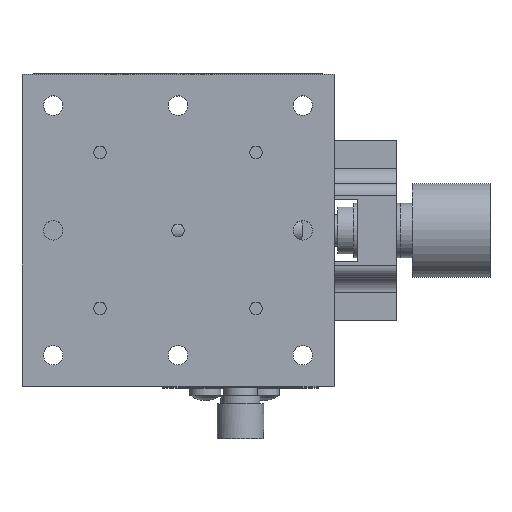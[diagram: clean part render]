
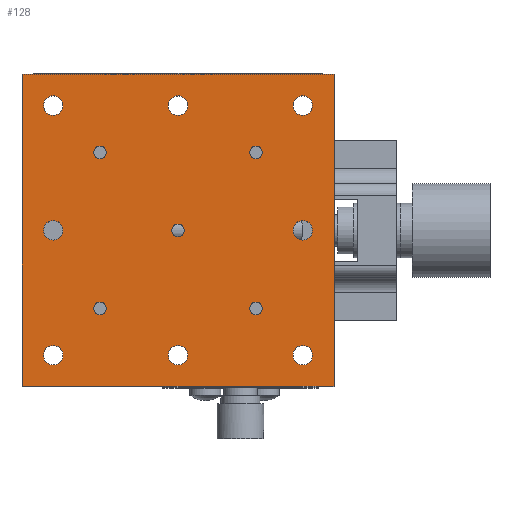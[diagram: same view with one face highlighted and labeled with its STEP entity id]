
A CAD part, top view. The second image highlights one B-rep face of the part: STEP entity #128.
In plain terms, the highlighted planar face has unit normal (0, 0, 1).
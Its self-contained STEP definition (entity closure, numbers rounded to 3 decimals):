
#128 = ADVANCED_FACE( '', ( #293, #294, #295, #296, #297, #298, #299, #300, #301, #302, #303, #304, #305, #306 ), #307, .T. );
#293 = FACE_BOUND( '', #737, .T. );
#294 = FACE_BOUND( '', #738, .T. );
#295 = FACE_BOUND( '', #739, .T. );
#296 = FACE_BOUND( '', #740, .T. );
#297 = FACE_BOUND( '', #741, .T. );
#298 = FACE_BOUND( '', #742, .T. );
#299 = FACE_BOUND( '', #743, .T. );
#300 = FACE_BOUND( '', #744, .T. );
#301 = FACE_BOUND( '', #745, .T. );
#302 = FACE_BOUND( '', #746, .T. );
#303 = FACE_BOUND( '', #747, .T. );
#304 = FACE_BOUND( '', #748, .T. );
#305 = FACE_BOUND( '', #749, .T. );
#306 = FACE_OUTER_BOUND( '', #750, .T. );
#307 = PLANE( '', #751 );
#737 = EDGE_LOOP( '', ( #1210 ) );
#738 = EDGE_LOOP( '', ( #1211 ) );
#739 = EDGE_LOOP( '', ( #1212 ) );
#740 = EDGE_LOOP( '', ( #1213 ) );
#741 = EDGE_LOOP( '', ( #1214 ) );
#742 = EDGE_LOOP( '', ( #1215 ) );
#743 = EDGE_LOOP( '', ( #1216 ) );
#744 = EDGE_LOOP( '', ( #1217 ) );
#745 = EDGE_LOOP( '', ( #1218 ) );
#746 = EDGE_LOOP( '', ( #1219 ) );
#747 = EDGE_LOOP( '', ( #1220 ) );
#748 = EDGE_LOOP( '', ( #1221 ) );
#749 = EDGE_LOOP( '', ( #1222 ) );
#750 = EDGE_LOOP( '', ( #1223, #1224, #1225, #1226 ) );
#751 = AXIS2_PLACEMENT_3D( '', #1227, #1228, #1229 );
#1210 = ORIENTED_EDGE( '', *, *, #2435, .T. );
#1211 = ORIENTED_EDGE( '', *, *, #2436, .T. );
#1212 = ORIENTED_EDGE( '', *, *, #2437, .T. );
#1213 = ORIENTED_EDGE( '', *, *, #2438, .T. );
#1214 = ORIENTED_EDGE( '', *, *, #2439, .T. );
#1215 = ORIENTED_EDGE( '', *, *, #2440, .T. );
#1216 = ORIENTED_EDGE( '', *, *, #2441, .T. );
#1217 = ORIENTED_EDGE( '', *, *, #2442, .T. );
#1218 = ORIENTED_EDGE( '', *, *, #2443, .T. );
#1219 = ORIENTED_EDGE( '', *, *, #2444, .T. );
#1220 = ORIENTED_EDGE( '', *, *, #2445, .T. );
#1221 = ORIENTED_EDGE( '', *, *, #2446, .T. );
#1222 = ORIENTED_EDGE( '', *, *, #2447, .T. );
#1223 = ORIENTED_EDGE( '', *, *, #2448, .F. );
#1224 = ORIENTED_EDGE( '', *, *, #2449, .F. );
#1225 = ORIENTED_EDGE( '', *, *, #2433, .F. );
#1226 = ORIENTED_EDGE( '', *, *, #2450, .F. );
#1227 = CARTESIAN_POINT( '', ( 0., 0., 15. ) );
#1228 = DIRECTION( '', ( 0., 0., 1. ) );
#1229 = DIRECTION( '', ( 1., 0., 0. ) );
#2433 = EDGE_CURVE( '', #2898, #2900, #2901, .T. );
#2435 = EDGE_CURVE( '', #2903, #2903, #2904, .T. );
#2436 = EDGE_CURVE( '', #2905, #2905, #2906, .T. );
#2437 = EDGE_CURVE( '', #2907, #2907, #2908, .T. );
#2438 = EDGE_CURVE( '', #2909, #2909, #2910, .T. );
#2439 = EDGE_CURVE( '', #2911, #2911, #2912, .T. );
#2440 = EDGE_CURVE( '', #2913, #2913, #2914, .T. );
#2441 = EDGE_CURVE( '', #2915, #2915, #2916, .T. );
#2442 = EDGE_CURVE( '', #2917, #2917, #2918, .T. );
#2443 = EDGE_CURVE( '', #2919, #2919, #2920, .T. );
#2444 = EDGE_CURVE( '', #2921, #2921, #2922, .T. );
#2445 = EDGE_CURVE( '', #2923, #2923, #2924, .T. );
#2446 = EDGE_CURVE( '', #2925, #2925, #2926, .T. );
#2447 = EDGE_CURVE( '', #2927, #2927, #2928, .T. );
#2448 = EDGE_CURVE( '', #2929, #2930, #2931, .T. );
#2449 = EDGE_CURVE( '', #2900, #2929, #2932, .T. );
#2450 = EDGE_CURVE( '', #2930, #2898, #2933, .T. );
#2898 = VERTEX_POINT( '', #3559 );
#2900 = VERTEX_POINT( '', #3562 );
#2901 = LINE( '', #3563, #3564 );
#2903 = VERTEX_POINT( '', #3567 );
#2904 = CIRCLE( '', #3568, 0.8 );
#2905 = VERTEX_POINT( '', #3569 );
#2906 = CIRCLE( '', #3570, 0.8 );
#2907 = VERTEX_POINT( '', #3571 );
#2908 = CIRCLE( '', #3572, 0.8 );
#2909 = VERTEX_POINT( '', #3573 );
#2910 = CIRCLE( '', #3574, 0.8 );
#2911 = VERTEX_POINT( '', #3575 );
#2912 = CIRCLE( '', #3576, 0.8 );
#2913 = VERTEX_POINT( '', #3577 );
#2914 = CIRCLE( '', #3578, 1.25 );
#2915 = VERTEX_POINT( '', #3579 );
#2916 = CIRCLE( '', #3580, 1.25 );
#2917 = VERTEX_POINT( '', #3581 );
#2918 = CIRCLE( '', #3582, 1.25 );
#2919 = VERTEX_POINT( '', #3583 );
#2920 = CIRCLE( '', #3584, 1.25 );
#2921 = VERTEX_POINT( '', #3585 );
#2922 = CIRCLE( '', #3586, 1.25 );
#2923 = VERTEX_POINT( '', #3587 );
#2924 = CIRCLE( '', #3588, 1.25 );
#2925 = VERTEX_POINT( '', #3589 );
#2926 = CIRCLE( '', #3590, 1.25 );
#2927 = VERTEX_POINT( '', #3591 );
#2928 = CIRCLE( '', #3592, 1.25 );
#2929 = VERTEX_POINT( '', #3593 );
#2930 = VERTEX_POINT( '', #3594 );
#2931 = LINE( '', #3595, #3596 );
#2932 = LINE( '', #3597, #3598 );
#2933 = LINE( '', #3599, #3600 );
#3559 = CARTESIAN_POINT( '', ( -20., 20., 15. ) );
#3562 = CARTESIAN_POINT( '', ( 20., 20., 15. ) );
#3563 = CARTESIAN_POINT( '', ( 0., 20., 15. ) );
#3564 = VECTOR( '', #4689, 1000. );
#3567 = CARTESIAN_POINT( '', ( 0., -0.8, 15. ) );
#3568 = AXIS2_PLACEMENT_3D( '', #4691, #4692, #4693 );
#3569 = CARTESIAN_POINT( '', ( -10., 9.2, 15. ) );
#3570 = AXIS2_PLACEMENT_3D( '', #4694, #4695, #4696 );
#3571 = CARTESIAN_POINT( '', ( 10., 9.2, 15. ) );
#3572 = AXIS2_PLACEMENT_3D( '', #4697, #4698, #4699 );
#3573 = CARTESIAN_POINT( '', ( 10., -10.8, 15. ) );
#3574 = AXIS2_PLACEMENT_3D( '', #4700, #4701, #4702 );
#3575 = CARTESIAN_POINT( '', ( -10., -10.8, 15. ) );
#3576 = AXIS2_PLACEMENT_3D( '', #4703, #4704, #4705 );
#3577 = CARTESIAN_POINT( '', ( -16., -1.25, 15. ) );
#3578 = AXIS2_PLACEMENT_3D( '', #4706, #4707, #4708 );
#3579 = CARTESIAN_POINT( '', ( -16., 14.75, 15. ) );
#3580 = AXIS2_PLACEMENT_3D( '', #4709, #4710, #4711 );
#3581 = CARTESIAN_POINT( '', ( 0., 14.75, 15. ) );
#3582 = AXIS2_PLACEMENT_3D( '', #4712, #4713, #4714 );
#3583 = CARTESIAN_POINT( '', ( 16., 14.75, 15. ) );
#3584 = AXIS2_PLACEMENT_3D( '', #4715, #4716, #4717 );
#3585 = CARTESIAN_POINT( '', ( 16., -1.25, 15. ) );
#3586 = AXIS2_PLACEMENT_3D( '', #4718, #4719, #4720 );
#3587 = CARTESIAN_POINT( '', ( 16., -17.25, 15. ) );
#3588 = AXIS2_PLACEMENT_3D( '', #4721, #4722, #4723 );
#3589 = CARTESIAN_POINT( '', ( 0., -17.25, 15. ) );
#3590 = AXIS2_PLACEMENT_3D( '', #4724, #4725, #4726 );
#3591 = CARTESIAN_POINT( '', ( -16., -17.25, 15. ) );
#3592 = AXIS2_PLACEMENT_3D( '', #4727, #4728, #4729 );
#3593 = CARTESIAN_POINT( '', ( 20., -20., 15. ) );
#3594 = CARTESIAN_POINT( '', ( -20., -20., 15. ) );
#3595 = CARTESIAN_POINT( '', ( 0., -20., 15. ) );
#3596 = VECTOR( '', #4730, 1000. );
#3597 = CARTESIAN_POINT( '', ( 20., 0., 15. ) );
#3598 = VECTOR( '', #4731, 1000. );
#3599 = CARTESIAN_POINT( '', ( -20., 0., 15. ) );
#3600 = VECTOR( '', #4732, 1000. );
#4689 = DIRECTION( '', ( 1., 0., 0. ) );
#4691 = CARTESIAN_POINT( '', ( 0., 0., 15. ) );
#4692 = DIRECTION( '', ( 0., 0., -1. ) );
#4693 = DIRECTION( '', ( 0., -1., 0. ) );
#4694 = CARTESIAN_POINT( '', ( -10., 10., 15. ) );
#4695 = DIRECTION( '', ( 0., 0., -1. ) );
#4696 = DIRECTION( '', ( 0., -1., 0. ) );
#4697 = CARTESIAN_POINT( '', ( 10., 10., 15. ) );
#4698 = DIRECTION( '', ( 0., 0., -1. ) );
#4699 = DIRECTION( '', ( 0., -1., 0. ) );
#4700 = CARTESIAN_POINT( '', ( 10., -10., 15. ) );
#4701 = DIRECTION( '', ( 0., 0., -1. ) );
#4702 = DIRECTION( '', ( 0., -1., 0. ) );
#4703 = CARTESIAN_POINT( '', ( -10., -10., 15. ) );
#4704 = DIRECTION( '', ( 0., 0., -1. ) );
#4705 = DIRECTION( '', ( 0., -1., 0. ) );
#4706 = CARTESIAN_POINT( '', ( -16., 0., 15. ) );
#4707 = DIRECTION( '', ( 0., 0., -1. ) );
#4708 = DIRECTION( '', ( 0., -1., 0. ) );
#4709 = CARTESIAN_POINT( '', ( -16., 16., 15. ) );
#4710 = DIRECTION( '', ( 0., 0., -1. ) );
#4711 = DIRECTION( '', ( 0., -1., 0. ) );
#4712 = CARTESIAN_POINT( '', ( 0., 16., 15. ) );
#4713 = DIRECTION( '', ( 0., 0., -1. ) );
#4714 = DIRECTION( '', ( 0., -1., 0. ) );
#4715 = CARTESIAN_POINT( '', ( 16., 16., 15. ) );
#4716 = DIRECTION( '', ( 0., 0., -1. ) );
#4717 = DIRECTION( '', ( 0., -1., 0. ) );
#4718 = CARTESIAN_POINT( '', ( 16., 0., 15. ) );
#4719 = DIRECTION( '', ( 0., 0., -1. ) );
#4720 = DIRECTION( '', ( 0., -1., 0. ) );
#4721 = CARTESIAN_POINT( '', ( 16., -16., 15. ) );
#4722 = DIRECTION( '', ( 0., 0., -1. ) );
#4723 = DIRECTION( '', ( 0., -1., 0. ) );
#4724 = CARTESIAN_POINT( '', ( 0., -16., 15. ) );
#4725 = DIRECTION( '', ( 0., 0., -1. ) );
#4726 = DIRECTION( '', ( 0., -1., 0. ) );
#4727 = CARTESIAN_POINT( '', ( -16., -16., 15. ) );
#4728 = DIRECTION( '', ( 0., 0., -1. ) );
#4729 = DIRECTION( '', ( 0., -1., 0. ) );
#4730 = DIRECTION( '', ( -1., 0., 0. ) );
#4731 = DIRECTION( '', ( 0., -1., 0. ) );
#4732 = DIRECTION( '', ( 0., 1., 0. ) );
